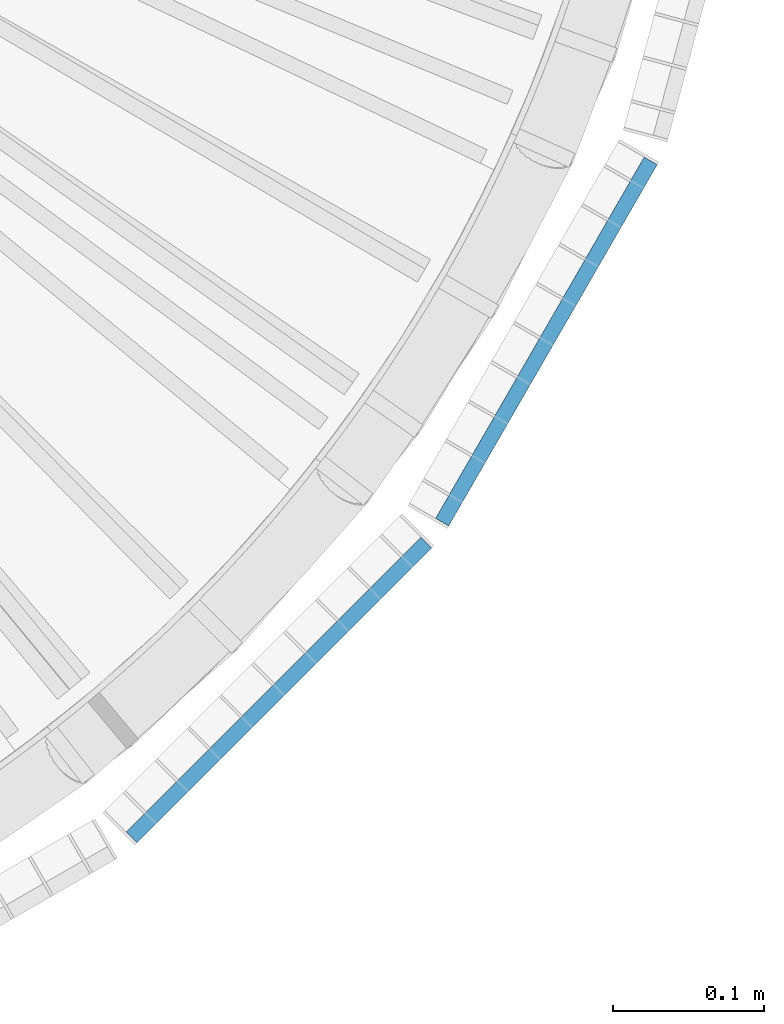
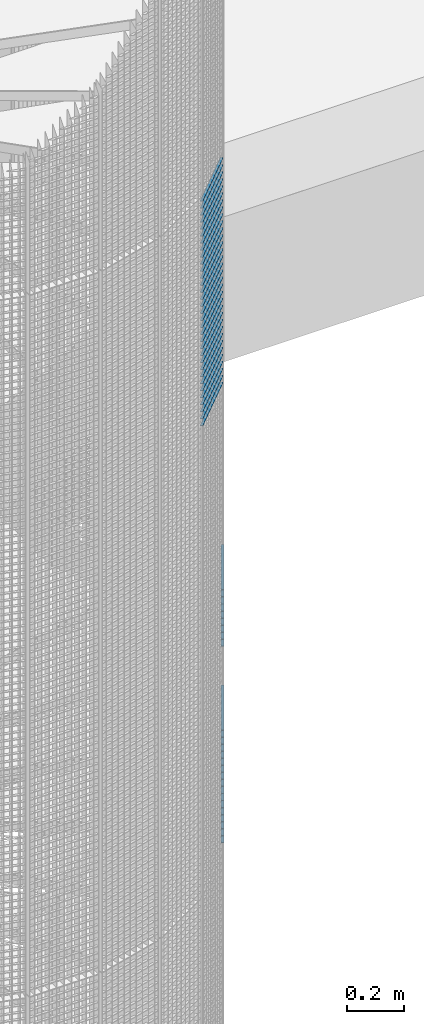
# One storey, part 253 of 1183: 59 beams, 2 elements without a shape of their own.
"""IFC2X3 building model written with IfcOpenShell, lengths in millimetres."""

from ifc_helpers import new_model, si_unit, frame, origin_with_axes, origin_2d_with_axis, place, context, subcontext, project, spatial, rectangle, extrude, material, type_object, element, aggregate, save


model = new_model("IFC2X3")

# Units and contexts
model_context = context("Model", 3, precision=1e-05, world=origin_with_axes())
body_context = subcontext(model_context, "Body", "Model", "MODEL_VIEW")
ifc_project = project(units=[si_unit("LENGTHUNIT", "METRE", prefix="MILLI"), si_unit("AREAUNIT", "SQUARE_METRE"), si_unit("VOLUMEUNIT", "CUBIC_METRE"), si_unit("MASSUNIT", "GRAM", prefix="KILO"), si_unit("TIMEUNIT", "SECOND"), si_unit("PLANEANGLEUNIT", "RADIAN"), si_unit("SOLIDANGLEUNIT", "STERADIAN"), si_unit("THERMODYNAMICTEMPERATUREUNIT", "DEGREE_CELSIUS"), si_unit("LUMINOUSINTENSITYUNIT", "LUMEN")], contexts=[model_context])

# Site, building, storey
site_placement = place(None, origin_with_axes())
site = spatial("IfcSite", under=ifc_project, at=site_placement, Name="Undefined", CompositionType="ELEMENT")
building_placement = place(site_placement, origin_with_axes())
building = spatial("IfcBuilding", under=site, at=building_placement, Name="Undefined", CompositionType="ELEMENT")
storey_placement = place(building_placement, origin_with_axes())
storey = spatial("IfcBuildingStorey", under=building, at=storey_placement, Name="Undefined", CompositionType="ELEMENT", Elevation=0.0)

# Assembly, beams
assembly_1_placement = place(storey_placement, origin_with_axes())
assembly_1 = element("IfcElementAssembly", 1, at=assembly_1_placement, inside=storey, Name="BORDURE", AssemblyPlace="NOTDEFINED", PredefinedType="NOTDEFINED")
ifc_material = material(Name="STEEL/S235JR")
beam_type = type_object("IfcBeamType", Name="PL2*10", PredefinedType="NOTDEFINED")
beam_1_placement = place(assembly_1_placement, frame((895.303964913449, -676.248044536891, 6510.0), z_axis=(0.866025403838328, -0.49999999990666, 0.0), x_axis=(0.49999999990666, 0.866025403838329, 0.0)))
beam_1 = element("IfcBeam", 2, at=beam_1_placement, type_object=beam_type, material=ifc_material, Name="ENTRETOISE", context=body_context, shape_type="SweptSolid", body=[
    extrude(rectangle(XDim=2.0, YDim=10.0, at=origin_2d_with_axis()), frame((275.999999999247, 9.09494701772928e-13, 1.53210777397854e-14), z_axis=(-1.0, 0.0, 0.0), x_axis=(0.0, -1.0, 0.0)), (0.0, 0.0, 1.0), 276.0),
])
beam_2_placement = place(assembly_1_placement, frame((895.303964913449, -676.248044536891, 6480.0), z_axis=(0.866025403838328, -0.49999999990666, 0.0), x_axis=(0.49999999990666, 0.866025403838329, 0.0)))
beam_2 = element("IfcBeam", 3, at=beam_2_placement, type_object=beam_type, material=ifc_material, Name="ENTRETOISE", context=body_context, shape_type="SweptSolid", body=[
    extrude(rectangle(XDim=2.0, YDim=10.0, at=origin_2d_with_axis()), frame((275.999999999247, 9.09494701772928e-13, 1.53210777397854e-14), z_axis=(-1.0, 0.0, 0.0), x_axis=(0.0, -1.0, 0.0)), (0.0, 0.0, 1.0), 276.0),
])
beam_3_placement = place(assembly_1_placement, frame((895.303964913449, -676.248044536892, 6870.0), z_axis=(0.866025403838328, -0.49999999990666, 0.0), x_axis=(0.49999999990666, 0.866025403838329, 0.0)))
beam_3 = element("IfcBeam", 4, at=beam_3_placement, type_object=beam_type, material=ifc_material, Name="ENTRETOISE", context=body_context, shape_type="SweptSolid", body=[
    extrude(rectangle(XDim=2.0, YDim=10.0, at=origin_2d_with_axis()), frame((275.999999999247, 9.09494701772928e-13, 1.53210777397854e-14), z_axis=(-1.0, 0.0, 0.0), x_axis=(0.0, -1.0, 0.0)), (0.0, 0.0, 1.0), 276.0),
])
beam_4_placement = place(assembly_1_placement, frame((895.30396491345, -676.248044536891, 6450.0), z_axis=(0.866025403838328, -0.49999999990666, 0.0), x_axis=(0.49999999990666, 0.866025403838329, 0.0)))
beam_4 = element("IfcBeam", 5, at=beam_4_placement, type_object=beam_type, material=ifc_material, Name="ENTRETOISE", context=body_context, shape_type="SweptSolid", body=[
    extrude(rectangle(XDim=2.0, YDim=10.0, at=origin_2d_with_axis()), frame((275.999999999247, 9.09494701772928e-13, 1.53210777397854e-14), z_axis=(-1.0, 0.0, 0.0), x_axis=(0.0, -1.0, 0.0)), (0.0, 0.0, 1.0), 276.0),
])
beam_5_placement = place(assembly_1_placement, frame((895.30396491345, -676.24804453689, 6420.0), z_axis=(0.866025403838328, -0.49999999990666, 0.0), x_axis=(0.49999999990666, 0.866025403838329, 0.0)))
beam_5 = element("IfcBeam", 6, at=beam_5_placement, type_object=beam_type, material=ifc_material, Name="ENTRETOISE", context=body_context, shape_type="SweptSolid", body=[
    extrude(rectangle(XDim=2.0, YDim=10.0, at=origin_2d_with_axis()), frame((275.999999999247, 9.09494701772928e-13, 1.53210777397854e-14), z_axis=(-1.0, 0.0, 0.0), x_axis=(0.0, -1.0, 0.0)), (0.0, 0.0, 1.0), 276.0),
])
beam_6_placement = place(assembly_1_placement, frame((895.303964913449, -676.248044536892, 6900.0), z_axis=(0.866025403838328, -0.49999999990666, 0.0), x_axis=(0.49999999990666, 0.866025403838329, 0.0)))
beam_6 = element("IfcBeam", 7, at=beam_6_placement, type_object=beam_type, material=ifc_material, Name="ENTRETOISE", context=body_context, shape_type="SweptSolid", body=[
    extrude(rectangle(XDim=2.0, YDim=10.0, at=origin_2d_with_axis()), frame((275.999999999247, 9.09494701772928e-13, 1.53210777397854e-14), z_axis=(-1.0, 0.0, 0.0), x_axis=(0.0, -1.0, 0.0)), (0.0, 0.0, 1.0), 276.0),
])
beam_7_placement = place(assembly_1_placement, frame((895.30396491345, -676.24804453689, 6390.0), z_axis=(0.866025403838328, -0.49999999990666, 0.0), x_axis=(0.49999999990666, 0.866025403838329, 0.0)))
beam_7 = element("IfcBeam", 8, at=beam_7_placement, type_object=beam_type, material=ifc_material, Name="ENTRETOISE", context=body_context, shape_type="SweptSolid", body=[
    extrude(rectangle(XDim=2.0, YDim=10.0, at=origin_2d_with_axis()), frame((275.999999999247, 9.09494701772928e-13, 1.53210777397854e-14), z_axis=(-1.0, 0.0, 0.0), x_axis=(0.0, -1.0, 0.0)), (0.0, 0.0, 1.0), 276.0),
])
beam_8_placement = place(assembly_1_placement, frame((895.303964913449, -676.248044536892, 6930.0), z_axis=(0.866025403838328, -0.49999999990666, 0.0), x_axis=(0.49999999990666, 0.866025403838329, 0.0)))
beam_8 = element("IfcBeam", 9, at=beam_8_placement, type_object=beam_type, material=ifc_material, Name="ENTRETOISE", context=body_context, shape_type="SweptSolid", body=[
    extrude(rectangle(XDim=2.0, YDim=10.0, at=origin_2d_with_axis()), frame((275.999999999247, 9.09494701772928e-13, 1.53210777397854e-14), z_axis=(-1.0, 0.0, 0.0), x_axis=(0.0, -1.0, 0.0)), (0.0, 0.0, 1.0), 276.0),
])
beam_9_placement = place(assembly_1_placement, frame((895.30396491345, -676.24804453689, 6360.0), z_axis=(0.866025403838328, -0.49999999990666, 0.0), x_axis=(0.49999999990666, 0.866025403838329, 0.0)))
beam_9 = element("IfcBeam", 10, at=beam_9_placement, type_object=beam_type, material=ifc_material, Name="ENTRETOISE", context=body_context, shape_type="SweptSolid", body=[
    extrude(rectangle(XDim=2.0, YDim=10.0, at=origin_2d_with_axis()), frame((275.999999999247, 9.09494701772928e-13, 1.53210777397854e-14), z_axis=(-1.0, 0.0, 0.0), x_axis=(0.0, -1.0, 0.0)), (0.0, 0.0, 1.0), 276.0),
])
beam_10_placement = place(assembly_1_placement, frame((895.30396491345, -676.24804453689, 6330.0), z_axis=(0.866025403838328, -0.49999999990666, 0.0), x_axis=(0.49999999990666, 0.866025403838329, 0.0)))
beam_10 = element("IfcBeam", 11, at=beam_10_placement, type_object=beam_type, material=ifc_material, Name="ENTRETOISE", context=body_context, shape_type="SweptSolid", body=[
    extrude(rectangle(XDim=2.0, YDim=10.0, at=origin_2d_with_axis()), frame((275.999999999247, 9.09494701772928e-13, 1.53210777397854e-14), z_axis=(-1.0, 0.0, 0.0), x_axis=(0.0, -1.0, 0.0)), (0.0, 0.0, 1.0), 276.0),
])
beam_11_placement = place(assembly_1_placement, frame((895.303964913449, -676.248044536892, 6960.0), z_axis=(0.866025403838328, -0.49999999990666, 0.0), x_axis=(0.49999999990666, 0.866025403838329, 0.0)))
beam_11 = element("IfcBeam", 12, at=beam_11_placement, type_object=beam_type, material=ifc_material, Name="ENTRETOISE", context=body_context, shape_type="SweptSolid", body=[
    extrude(rectangle(XDim=2.0, YDim=10.0, at=origin_2d_with_axis()), frame((275.999999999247, 9.09494701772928e-13, 1.53210777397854e-14), z_axis=(-1.0, 0.0, 0.0), x_axis=(0.0, -1.0, 0.0)), (0.0, 0.0, 1.0), 276.0),
])
beam_12_placement = place(assembly_1_placement, frame((895.30396491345, -676.24804453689, 6300.0), z_axis=(0.866025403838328, -0.49999999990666, 0.0), x_axis=(0.49999999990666, 0.866025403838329, 0.0)))
beam_12 = element("IfcBeam", 13, at=beam_12_placement, type_object=beam_type, material=ifc_material, Name="ENTRETOISE", context=body_context, shape_type="SweptSolid", body=[
    extrude(rectangle(XDim=2.0, YDim=10.0, at=origin_2d_with_axis()), frame((275.999999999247, 9.09494701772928e-13, 1.53210777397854e-14), z_axis=(-1.0, 0.0, 0.0), x_axis=(0.0, -1.0, 0.0)), (0.0, 0.0, 1.0), 276.0),
])
beam_13_placement = place(assembly_1_placement, frame((895.30396491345, -676.24804453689, 6270.0), z_axis=(0.866025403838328, -0.49999999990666, 0.0), x_axis=(0.49999999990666, 0.866025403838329, 0.0)))
beam_13 = element("IfcBeam", 14, at=beam_13_placement, type_object=beam_type, material=ifc_material, Name="ENTRETOISE", context=body_context, shape_type="SweptSolid", body=[
    extrude(rectangle(XDim=2.0, YDim=10.0, at=origin_2d_with_axis()), frame((275.999999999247, 9.09494701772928e-13, 1.53210777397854e-14), z_axis=(-1.0, 0.0, 0.0), x_axis=(0.0, -1.0, 0.0)), (0.0, 0.0, 1.0), 276.0),
])
beam_14_placement = place(assembly_1_placement, frame((895.303964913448, -676.248044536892, 6990.0), z_axis=(0.866025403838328, -0.49999999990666, 0.0), x_axis=(0.49999999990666, 0.866025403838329, 0.0)))
beam_14 = element("IfcBeam", 15, at=beam_14_placement, type_object=beam_type, material=ifc_material, Name="ENTRETOISE", context=body_context, shape_type="SweptSolid", body=[
    extrude(rectangle(XDim=2.0, YDim=10.0, at=origin_2d_with_axis()), frame((275.999999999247, 9.09494701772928e-13, 1.53210777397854e-14), z_axis=(-1.0, 0.0, 0.0), x_axis=(0.0, -1.0, 0.0)), (0.0, 0.0, 1.0), 276.0),
])
beam_15_placement = place(assembly_1_placement, frame((895.30396491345, -676.24804453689, 6240.0), z_axis=(0.866025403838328, -0.49999999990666, 0.0), x_axis=(0.49999999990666, 0.866025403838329, 0.0)))
beam_15 = element("IfcBeam", 16, at=beam_15_placement, type_object=beam_type, material=ifc_material, Name="ENTRETOISE", context=body_context, shape_type="SweptSolid", body=[
    extrude(rectangle(XDim=2.0, YDim=10.0, at=origin_2d_with_axis()), frame((275.999999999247, 9.09494701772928e-13, 1.53210777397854e-14), z_axis=(-1.0, 0.0, 0.0), x_axis=(0.0, -1.0, 0.0)), (0.0, 0.0, 1.0), 276.0),
])
beam_16_placement = place(assembly_1_placement, frame((895.303964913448, -676.248044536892, 7020.0), z_axis=(0.866025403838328, -0.49999999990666, 0.0), x_axis=(0.49999999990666, 0.866025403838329, 0.0)))
beam_16 = element("IfcBeam", 17, at=beam_16_placement, type_object=beam_type, material=ifc_material, Name="ENTRETOISE", context=body_context, shape_type="SweptSolid", body=[
    extrude(rectangle(XDim=2.0, YDim=10.0, at=origin_2d_with_axis()), frame((275.999999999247, 9.09494701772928e-13, 1.53210777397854e-14), z_axis=(-1.0, 0.0, 0.0), x_axis=(0.0, -1.0, 0.0)), (0.0, 0.0, 1.0), 276.0),
])
beam_17_placement = place(assembly_1_placement, frame((895.30396491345, -676.24804453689, 6210.0), z_axis=(0.866025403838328, -0.49999999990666, 0.0), x_axis=(0.49999999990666, 0.866025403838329, 0.0)))
beam_17 = element("IfcBeam", 18, at=beam_17_placement, type_object=beam_type, material=ifc_material, Name="ENTRETOISE", context=body_context, shape_type="SweptSolid", body=[
    extrude(rectangle(XDim=2.0, YDim=10.0, at=origin_2d_with_axis()), frame((275.999999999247, 9.09494701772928e-13, 1.53210777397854e-14), z_axis=(-1.0, 0.0, 0.0), x_axis=(0.0, -1.0, 0.0)), (0.0, 0.0, 1.0), 276.0),
])
beam_18_placement = place(assembly_1_placement, frame((895.30396491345, -676.24804453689, 6180.0), z_axis=(0.866025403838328, -0.49999999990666, 0.0), x_axis=(0.49999999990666, 0.866025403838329, 0.0)))
beam_18 = element("IfcBeam", 19, at=beam_18_placement, type_object=beam_type, material=ifc_material, Name="ENTRETOISE", context=body_context, shape_type="SweptSolid", body=[
    extrude(rectangle(XDim=2.0, YDim=10.0, at=origin_2d_with_axis()), frame((275.999999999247, 9.09494701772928e-13, 1.53210777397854e-14), z_axis=(-1.0, 0.0, 0.0), x_axis=(0.0, -1.0, 0.0)), (0.0, 0.0, 1.0), 276.0),
])
beam_19_placement = place(assembly_1_placement, frame((895.303964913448, -676.248044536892, 7050.0), z_axis=(0.866025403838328, -0.49999999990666, 0.0), x_axis=(0.49999999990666, 0.866025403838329, 0.0)))
beam_19 = element("IfcBeam", 20, at=beam_19_placement, type_object=beam_type, material=ifc_material, Name="ENTRETOISE", context=body_context, shape_type="SweptSolid", body=[
    extrude(rectangle(XDim=2.0, YDim=10.0, at=origin_2d_with_axis()), frame((275.999999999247, 9.09494701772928e-13, 1.53210777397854e-14), z_axis=(-1.0, 0.0, 0.0), x_axis=(0.0, -1.0, 0.0)), (0.0, 0.0, 1.0), 276.0),
])
beam_20_placement = place(assembly_1_placement, frame((895.30396491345, -676.24804453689, 6150.0), z_axis=(0.866025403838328, -0.49999999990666, 0.0), x_axis=(0.49999999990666, 0.866025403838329, 0.0)))
beam_20 = element("IfcBeam", 21, at=beam_20_placement, type_object=beam_type, material=ifc_material, Name="ENTRETOISE", context=body_context, shape_type="SweptSolid", body=[
    extrude(rectangle(XDim=2.0, YDim=10.0, at=origin_2d_with_axis()), frame((275.999999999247, 9.09494701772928e-13, 1.53210777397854e-14), z_axis=(-1.0, 0.0, 0.0), x_axis=(0.0, -1.0, 0.0)), (0.0, 0.0, 1.0), 276.0),
])
beam_21_placement = place(assembly_1_placement, frame((895.30396491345, -676.24804453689, 6120.0), z_axis=(0.866025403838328, -0.49999999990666, 0.0), x_axis=(0.49999999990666, 0.866025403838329, 0.0)))
beam_21 = element("IfcBeam", 22, at=beam_21_placement, type_object=beam_type, material=ifc_material, Name="ENTRETOISE", context=body_context, shape_type="SweptSolid", body=[
    extrude(rectangle(XDim=2.0, YDim=10.0, at=origin_2d_with_axis()), frame((275.999999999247, 9.09494701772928e-13, 1.53210777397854e-14), z_axis=(-1.0, 0.0, 0.0), x_axis=(0.0, -1.0, 0.0)), (0.0, 0.0, 1.0), 276.0),
])
beam_22_placement = place(assembly_1_placement, frame((895.303964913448, -676.248044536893, 7080.0), z_axis=(0.866025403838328, -0.49999999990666, 0.0), x_axis=(0.49999999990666, 0.866025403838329, 0.0)))
beam_22 = element("IfcBeam", 23, at=beam_22_placement, type_object=beam_type, material=ifc_material, Name="ENTRETOISE", context=body_context, shape_type="SweptSolid", body=[
    extrude(rectangle(XDim=2.0, YDim=10.0, at=origin_2d_with_axis()), frame((275.999999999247, 9.09494701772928e-13, 1.53210777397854e-14), z_axis=(-1.0, 0.0, 0.0), x_axis=(0.0, -1.0, 0.0)), (0.0, 0.0, 1.0), 276.0),
])
beam_23_placement = place(assembly_1_placement, frame((895.30396491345, -676.248044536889, 6090.0), z_axis=(0.866025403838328, -0.49999999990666, 0.0), x_axis=(0.49999999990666, 0.866025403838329, 0.0)))
beam_23 = element("IfcBeam", 24, at=beam_23_placement, type_object=beam_type, material=ifc_material, Name="ENTRETOISE", context=body_context, shape_type="SweptSolid", body=[
    extrude(rectangle(XDim=2.0, YDim=10.0, at=origin_2d_with_axis()), frame((275.999999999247, 9.09494701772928e-13, 1.53210777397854e-14), z_axis=(-1.0, 0.0, 0.0), x_axis=(0.0, -1.0, 0.0)), (0.0, 0.0, 1.0), 276.0),
])
beam_24_placement = place(assembly_1_placement, frame((895.30396491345, -676.248044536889, 6060.0), z_axis=(0.866025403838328, -0.49999999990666, 0.0), x_axis=(0.49999999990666, 0.866025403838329, 0.0)))
beam_24 = element("IfcBeam", 25, at=beam_24_placement, type_object=beam_type, material=ifc_material, Name="ENTRETOISE", context=body_context, shape_type="SweptSolid", body=[
    extrude(rectangle(XDim=2.0, YDim=10.0, at=origin_2d_with_axis()), frame((275.999999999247, 9.09494701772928e-13, 1.53210777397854e-14), z_axis=(-1.0, 0.0, 0.0), x_axis=(0.0, -1.0, 0.0)), (0.0, 0.0, 1.0), 276.0),
])
beam_25_placement = place(assembly_1_placement, frame((895.303964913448, -676.248044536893, 7110.0), z_axis=(0.866025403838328, -0.49999999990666, 0.0), x_axis=(0.49999999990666, 0.866025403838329, 0.0)))
beam_25 = element("IfcBeam", 26, at=beam_25_placement, type_object=beam_type, material=ifc_material, Name="ENTRETOISE", context=body_context, shape_type="SweptSolid", body=[
    extrude(rectangle(XDim=2.0, YDim=10.0, at=origin_2d_with_axis()), frame((275.999999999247, 9.09494701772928e-13, 1.53210777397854e-14), z_axis=(-1.0, 0.0, 0.0), x_axis=(0.0, -1.0, 0.0)), (0.0, 0.0, 1.0), 276.0),
])
beam_26_placement = place(assembly_1_placement, frame((895.30396491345, -676.248044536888, 6030.0), z_axis=(0.866025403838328, -0.49999999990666, 0.0), x_axis=(0.49999999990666, 0.866025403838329, 0.0)))
beam_26 = element("IfcBeam", 27, at=beam_26_placement, type_object=beam_type, material=ifc_material, Name="ENTRETOISE", context=body_context, shape_type="SweptSolid", body=[
    extrude(rectangle(XDim=2.0, YDim=10.0, at=origin_2d_with_axis()), frame((275.999999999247, 9.09494701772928e-13, 1.53210777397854e-14), z_axis=(-1.0, 0.0, 0.0), x_axis=(0.0, -1.0, 0.0)), (0.0, 0.0, 1.0), 276.0),
])
aggregate(assembly_1, [beam_1, beam_2, beam_3, beam_4, beam_5, beam_6, beam_7, beam_8, beam_9, beam_10, beam_11, beam_12, beam_13, beam_14, beam_15, beam_16, beam_17, beam_18, beam_19, beam_20, beam_21, beam_22, beam_23, beam_24, beam_25, beam_26])

assembly_2_placement = place(storey_placement, origin_with_axes())
assembly_2 = element("IfcElementAssembly", 28, at=assembly_2_placement, inside=storey, Name="BORDURE", AssemblyPlace="NOTDEFINED", PredefinedType="NOTDEFINED")
beam_27_placement = place(assembly_2_placement, frame((689.771348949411, -884.927168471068, 8970.0), z_axis=(0.707106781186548, -0.707106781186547, 0.0), x_axis=(0.707106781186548, 0.707106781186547, 0.0)))
beam_27 = element("IfcBeam", 29, at=beam_27_placement, type_object=beam_type, material=ifc_material, Name="ENTRETOISE", context=body_context, shape_type="SweptSolid", body=[
    extrude(rectangle(XDim=2.0, YDim=10.0, at=origin_2d_with_axis()), frame((275.999999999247, 9.09494701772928e-13, 1.53210777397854e-14), z_axis=(-1.0, 0.0, 0.0), x_axis=(0.0, -1.0, 0.0)), (0.0, 0.0, 1.0), 276.0),
])
beam_28_placement = place(assembly_2_placement, frame((689.771348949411, -884.927168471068, 8940.0), z_axis=(0.707106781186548, -0.707106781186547, 0.0), x_axis=(0.707106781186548, 0.707106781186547, 0.0)))
beam_28 = element("IfcBeam", 30, at=beam_28_placement, type_object=beam_type, material=ifc_material, Name="ENTRETOISE", context=body_context, shape_type="SweptSolid", body=[
    extrude(rectangle(XDim=2.0, YDim=10.0, at=origin_2d_with_axis()), frame((275.999999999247, 9.09494701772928e-13, 1.53210777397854e-14), z_axis=(-1.0, 0.0, 0.0), x_axis=(0.0, -1.0, 0.0)), (0.0, 0.0, 1.0), 276.0),
])
beam_29_placement = place(assembly_2_placement, frame((689.771348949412, -884.927168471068, 8910.0), z_axis=(0.707106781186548, -0.707106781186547, 0.0), x_axis=(0.707106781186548, 0.707106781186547, 0.0)))
beam_29 = element("IfcBeam", 31, at=beam_29_placement, type_object=beam_type, material=ifc_material, Name="ENTRETOISE", context=body_context, shape_type="SweptSolid", body=[
    extrude(rectangle(XDim=2.0, YDim=10.0, at=origin_2d_with_axis()), frame((275.999999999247, 9.09494701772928e-13, 1.53210777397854e-14), z_axis=(-1.0, 0.0, 0.0), x_axis=(0.0, -1.0, 0.0)), (0.0, 0.0, 1.0), 276.0),
])
beam_30_placement = place(assembly_2_placement, frame((689.771348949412, -884.927168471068, 8880.0), z_axis=(0.707106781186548, -0.707106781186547, 0.0), x_axis=(0.707106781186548, 0.707106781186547, 0.0)))
beam_30 = element("IfcBeam", 32, at=beam_30_placement, type_object=beam_type, material=ifc_material, Name="ENTRETOISE", context=body_context, shape_type="SweptSolid", body=[
    extrude(rectangle(XDim=2.0, YDim=10.0, at=origin_2d_with_axis()), frame((275.999999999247, 9.09494701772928e-13, 1.53210777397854e-14), z_axis=(-1.0, 0.0, 0.0), x_axis=(0.0, -1.0, 0.0)), (0.0, 0.0, 1.0), 276.0),
])
beam_31_placement = place(assembly_2_placement, frame((689.771348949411, -884.927168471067, 8850.0), z_axis=(0.707106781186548, -0.707106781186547, 0.0), x_axis=(0.707106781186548, 0.707106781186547, 0.0)))
beam_31 = element("IfcBeam", 33, at=beam_31_placement, type_object=beam_type, material=ifc_material, Name="ENTRETOISE", context=body_context, shape_type="SweptSolid", body=[
    extrude(rectangle(XDim=2.0, YDim=10.0, at=origin_2d_with_axis()), frame((275.999999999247, 9.09494701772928e-13, 1.53210777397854e-14), z_axis=(-1.0, 0.0, 0.0), x_axis=(0.0, -1.0, 0.0)), (0.0, 0.0, 1.0), 276.0),
])
beam_32_placement = place(assembly_2_placement, frame((689.771348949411, -884.927168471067, 8820.0), z_axis=(0.707106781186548, -0.707106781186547, 0.0), x_axis=(0.707106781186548, 0.707106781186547, 0.0)))
beam_32 = element("IfcBeam", 34, at=beam_32_placement, type_object=beam_type, material=ifc_material, Name="ENTRETOISE", context=body_context, shape_type="SweptSolid", body=[
    extrude(rectangle(XDim=2.0, YDim=10.0, at=origin_2d_with_axis()), frame((275.999999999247, 9.09494701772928e-13, 1.53210777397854e-14), z_axis=(-1.0, 0.0, 0.0), x_axis=(0.0, -1.0, 0.0)), (0.0, 0.0, 1.0), 276.0),
])
beam_33_placement = place(assembly_2_placement, frame((689.771348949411, -884.927168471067, 8790.0), z_axis=(0.707106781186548, -0.707106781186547, 0.0), x_axis=(0.707106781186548, 0.707106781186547, 0.0)))
beam_33 = element("IfcBeam", 35, at=beam_33_placement, type_object=beam_type, material=ifc_material, Name="ENTRETOISE", context=body_context, shape_type="SweptSolid", body=[
    extrude(rectangle(XDim=2.0, YDim=10.0, at=origin_2d_with_axis()), frame((275.999999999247, 9.09494701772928e-13, 1.53210777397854e-14), z_axis=(-1.0, 0.0, 0.0), x_axis=(0.0, -1.0, 0.0)), (0.0, 0.0, 1.0), 276.0),
])
beam_34_placement = place(assembly_2_placement, frame((689.771348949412, -884.927168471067, 8760.0), z_axis=(0.707106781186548, -0.707106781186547, 0.0), x_axis=(0.707106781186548, 0.707106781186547, 0.0)))
beam_34 = element("IfcBeam", 36, at=beam_34_placement, type_object=beam_type, material=ifc_material, Name="ENTRETOISE", context=body_context, shape_type="SweptSolid", body=[
    extrude(rectangle(XDim=2.0, YDim=10.0, at=origin_2d_with_axis()), frame((275.999999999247, 9.09494701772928e-13, 1.53210777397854e-14), z_axis=(-1.0, 0.0, 0.0), x_axis=(0.0, -1.0, 0.0)), (0.0, 0.0, 1.0), 276.0),
])
beam_35_placement = place(assembly_2_placement, frame((689.771348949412, -884.927168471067, 8730.0), z_axis=(0.707106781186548, -0.707106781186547, 0.0), x_axis=(0.707106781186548, 0.707106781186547, 0.0)))
beam_35 = element("IfcBeam", 37, at=beam_35_placement, type_object=beam_type, material=ifc_material, Name="ENTRETOISE", context=body_context, shape_type="SweptSolid", body=[
    extrude(rectangle(XDim=2.0, YDim=10.0, at=origin_2d_with_axis()), frame((275.999999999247, 9.09494701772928e-13, 1.53210777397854e-14), z_axis=(-1.0, 0.0, 0.0), x_axis=(0.0, -1.0, 0.0)), (0.0, 0.0, 1.0), 276.0),
])
beam_36_placement = place(assembly_2_placement, frame((689.771348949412, -884.927168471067, 8700.0), z_axis=(0.707106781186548, -0.707106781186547, 0.0), x_axis=(0.707106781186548, 0.707106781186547, 0.0)))
beam_36 = element("IfcBeam", 38, at=beam_36_placement, type_object=beam_type, material=ifc_material, Name="ENTRETOISE", context=body_context, shape_type="SweptSolid", body=[
    extrude(rectangle(XDim=2.0, YDim=10.0, at=origin_2d_with_axis()), frame((275.999999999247, 9.09494701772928e-13, 1.53210777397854e-14), z_axis=(-1.0, 0.0, 0.0), x_axis=(0.0, -1.0, 0.0)), (0.0, 0.0, 1.0), 276.0),
])
beam_37_placement = place(assembly_2_placement, frame((689.771348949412, -884.927168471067, 8670.0), z_axis=(0.707106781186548, -0.707106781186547, 0.0), x_axis=(0.707106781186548, 0.707106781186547, 0.0)))
beam_37 = element("IfcBeam", 39, at=beam_37_placement, type_object=beam_type, material=ifc_material, Name="ENTRETOISE", context=body_context, shape_type="SweptSolid", body=[
    extrude(rectangle(XDim=2.0, YDim=10.0, at=origin_2d_with_axis()), frame((275.999999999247, 9.09494701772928e-13, 1.53210777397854e-14), z_axis=(-1.0, 0.0, 0.0), x_axis=(0.0, -1.0, 0.0)), (0.0, 0.0, 1.0), 276.0),
])
beam_38_placement = place(assembly_2_placement, frame((689.771348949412, -884.927168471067, 8640.0), z_axis=(0.707106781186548, -0.707106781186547, 0.0), x_axis=(0.707106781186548, 0.707106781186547, 0.0)))
beam_38 = element("IfcBeam", 40, at=beam_38_placement, type_object=beam_type, material=ifc_material, Name="ENTRETOISE", context=body_context, shape_type="SweptSolid", body=[
    extrude(rectangle(XDim=2.0, YDim=10.0, at=origin_2d_with_axis()), frame((275.999999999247, 9.09494701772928e-13, 1.53210777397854e-14), z_axis=(-1.0, 0.0, 0.0), x_axis=(0.0, -1.0, 0.0)), (0.0, 0.0, 1.0), 276.0),
])
beam_39_placement = place(assembly_2_placement, frame((689.771348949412, -884.927168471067, 8610.0), z_axis=(0.707106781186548, -0.707106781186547, 0.0), x_axis=(0.707106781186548, 0.707106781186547, 0.0)))
beam_39 = element("IfcBeam", 41, at=beam_39_placement, type_object=beam_type, material=ifc_material, Name="ENTRETOISE", context=body_context, shape_type="SweptSolid", body=[
    extrude(rectangle(XDim=2.0, YDim=10.0, at=origin_2d_with_axis()), frame((275.999999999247, 9.09494701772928e-13, 1.53210777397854e-14), z_axis=(-1.0, 0.0, 0.0), x_axis=(0.0, -1.0, 0.0)), (0.0, 0.0, 1.0), 276.0),
])
beam_40_placement = place(assembly_2_placement, frame((689.771348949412, -884.927168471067, 8580.0), z_axis=(0.707106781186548, -0.707106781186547, 0.0), x_axis=(0.707106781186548, 0.707106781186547, 0.0)))
beam_40 = element("IfcBeam", 42, at=beam_40_placement, type_object=beam_type, material=ifc_material, Name="ENTRETOISE", context=body_context, shape_type="SweptSolid", body=[
    extrude(rectangle(XDim=2.0, YDim=10.0, at=origin_2d_with_axis()), frame((275.999999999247, 9.09494701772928e-13, 1.53210777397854e-14), z_axis=(-1.0, 0.0, 0.0), x_axis=(0.0, -1.0, 0.0)), (0.0, 0.0, 1.0), 276.0),
])
beam_41_placement = place(assembly_2_placement, frame((689.771348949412, -884.927168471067, 8550.0), z_axis=(0.707106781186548, -0.707106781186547, 0.0), x_axis=(0.707106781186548, 0.707106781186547, 0.0)))
beam_41 = element("IfcBeam", 43, at=beam_41_placement, type_object=beam_type, material=ifc_material, Name="ENTRETOISE", context=body_context, shape_type="SweptSolid", body=[
    extrude(rectangle(XDim=2.0, YDim=10.0, at=origin_2d_with_axis()), frame((275.999999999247, 9.09494701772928e-13, 1.53210777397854e-14), z_axis=(-1.0, 0.0, 0.0), x_axis=(0.0, -1.0, 0.0)), (0.0, 0.0, 1.0), 276.0),
])
beam_42_placement = place(assembly_2_placement, frame((689.771348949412, -884.927168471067, 8520.0), z_axis=(0.707106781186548, -0.707106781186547, 0.0), x_axis=(0.707106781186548, 0.707106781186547, 0.0)))
beam_42 = element("IfcBeam", 44, at=beam_42_placement, type_object=beam_type, material=ifc_material, Name="ENTRETOISE", context=body_context, shape_type="SweptSolid", body=[
    extrude(rectangle(XDim=2.0, YDim=10.0, at=origin_2d_with_axis()), frame((275.999999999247, 9.09494701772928e-13, 1.53210777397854e-14), z_axis=(-1.0, 0.0, 0.0), x_axis=(0.0, -1.0, 0.0)), (0.0, 0.0, 1.0), 276.0),
])
beam_43_placement = place(assembly_2_placement, frame((689.771348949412, -884.927168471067, 8490.0), z_axis=(0.707106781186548, -0.707106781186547, 0.0), x_axis=(0.707106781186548, 0.707106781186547, 0.0)))
beam_43 = element("IfcBeam", 45, at=beam_43_placement, type_object=beam_type, material=ifc_material, Name="ENTRETOISE", context=body_context, shape_type="SweptSolid", body=[
    extrude(rectangle(XDim=2.0, YDim=10.0, at=origin_2d_with_axis()), frame((275.999999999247, 9.09494701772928e-13, 1.53210777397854e-14), z_axis=(-1.0, 0.0, 0.0), x_axis=(0.0, -1.0, 0.0)), (0.0, 0.0, 1.0), 276.0),
])
beam_44_placement = place(assembly_2_placement, frame((689.771348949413, -884.927168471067, 8460.0), z_axis=(0.707106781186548, -0.707106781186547, 0.0), x_axis=(0.707106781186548, 0.707106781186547, 0.0)))
beam_44 = element("IfcBeam", 46, at=beam_44_placement, type_object=beam_type, material=ifc_material, Name="ENTRETOISE", context=body_context, shape_type="SweptSolid", body=[
    extrude(rectangle(XDim=2.0, YDim=10.0, at=origin_2d_with_axis()), frame((275.999999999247, 9.09494701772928e-13, 1.53210777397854e-14), z_axis=(-1.0, 0.0, 0.0), x_axis=(0.0, -1.0, 0.0)), (0.0, 0.0, 1.0), 276.0),
])
beam_45_placement = place(assembly_2_placement, frame((689.771348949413, -884.927168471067, 8430.0), z_axis=(0.707106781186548, -0.707106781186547, 0.0), x_axis=(0.707106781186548, 0.707106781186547, 0.0)))
beam_45 = element("IfcBeam", 47, at=beam_45_placement, type_object=beam_type, material=ifc_material, Name="ENTRETOISE", context=body_context, shape_type="SweptSolid", body=[
    extrude(rectangle(XDim=2.0, YDim=10.0, at=origin_2d_with_axis()), frame((275.999999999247, 9.09494701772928e-13, 1.53210777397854e-14), z_axis=(-1.0, 0.0, 0.0), x_axis=(0.0, -1.0, 0.0)), (0.0, 0.0, 1.0), 276.0),
])
beam_46_placement = place(assembly_2_placement, frame((689.771348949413, -884.927168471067, 8400.0), z_axis=(0.707106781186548, -0.707106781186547, 0.0), x_axis=(0.707106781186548, 0.707106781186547, 0.0)))
beam_46 = element("IfcBeam", 48, at=beam_46_placement, type_object=beam_type, material=ifc_material, Name="ENTRETOISE", context=body_context, shape_type="SweptSolid", body=[
    extrude(rectangle(XDim=2.0, YDim=10.0, at=origin_2d_with_axis()), frame((275.999999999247, 9.09494701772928e-13, 1.53210777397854e-14), z_axis=(-1.0, 0.0, 0.0), x_axis=(0.0, -1.0, 0.0)), (0.0, 0.0, 1.0), 276.0),
])
beam_47_placement = place(assembly_2_placement, frame((689.771348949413, -884.927168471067, 8370.0), z_axis=(0.707106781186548, -0.707106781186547, 0.0), x_axis=(0.707106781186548, 0.707106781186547, 0.0)))
beam_47 = element("IfcBeam", 49, at=beam_47_placement, type_object=beam_type, material=ifc_material, Name="ENTRETOISE", context=body_context, shape_type="SweptSolid", body=[
    extrude(rectangle(XDim=2.0, YDim=10.0, at=origin_2d_with_axis()), frame((275.999999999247, 9.09494701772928e-13, 1.53210777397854e-14), z_axis=(-1.0, 0.0, 0.0), x_axis=(0.0, -1.0, 0.0)), (0.0, 0.0, 1.0), 276.0),
])
beam_48_placement = place(assembly_2_placement, frame((689.771348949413, -884.927168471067, 8340.0), z_axis=(0.707106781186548, -0.707106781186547, 0.0), x_axis=(0.707106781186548, 0.707106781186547, 0.0)))
beam_48 = element("IfcBeam", 50, at=beam_48_placement, type_object=beam_type, material=ifc_material, Name="ENTRETOISE", context=body_context, shape_type="SweptSolid", body=[
    extrude(rectangle(XDim=2.0, YDim=10.0, at=origin_2d_with_axis()), frame((275.999999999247, 9.09494701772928e-13, 1.53210777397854e-14), z_axis=(-1.0, 0.0, 0.0), x_axis=(0.0, -1.0, 0.0)), (0.0, 0.0, 1.0), 276.0),
])
beam_49_placement = place(assembly_2_placement, frame((689.771348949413, -884.927168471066, 8310.0), z_axis=(0.707106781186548, -0.707106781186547, 0.0), x_axis=(0.707106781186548, 0.707106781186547, 0.0)))
beam_49 = element("IfcBeam", 51, at=beam_49_placement, type_object=beam_type, material=ifc_material, Name="ENTRETOISE", context=body_context, shape_type="SweptSolid", body=[
    extrude(rectangle(XDim=2.0, YDim=10.0, at=origin_2d_with_axis()), frame((275.999999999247, 9.09494701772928e-13, 1.53210777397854e-14), z_axis=(-1.0, 0.0, 0.0), x_axis=(0.0, -1.0, 0.0)), (0.0, 0.0, 1.0), 276.0),
])
beam_50_placement = place(assembly_2_placement, frame((689.771348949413, -884.927168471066, 8280.0), z_axis=(0.707106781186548, -0.707106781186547, 0.0), x_axis=(0.707106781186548, 0.707106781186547, 0.0)))
beam_50 = element("IfcBeam", 52, at=beam_50_placement, type_object=beam_type, material=ifc_material, Name="ENTRETOISE", context=body_context, shape_type="SweptSolid", body=[
    extrude(rectangle(XDim=2.0, YDim=10.0, at=origin_2d_with_axis()), frame((275.999999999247, 9.09494701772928e-13, 1.53210777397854e-14), z_axis=(-1.0, 0.0, 0.0), x_axis=(0.0, -1.0, 0.0)), (0.0, 0.0, 1.0), 276.0),
])
beam_51_placement = place(assembly_2_placement, frame((689.771348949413, -884.927168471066, 8250.0), z_axis=(0.707106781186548, -0.707106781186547, 0.0), x_axis=(0.707106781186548, 0.707106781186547, 0.0)))
beam_51 = element("IfcBeam", 53, at=beam_51_placement, type_object=beam_type, material=ifc_material, Name="ENTRETOISE", context=body_context, shape_type="SweptSolid", body=[
    extrude(rectangle(XDim=2.0, YDim=10.0, at=origin_2d_with_axis()), frame((275.999999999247, 9.09494701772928e-13, 1.53210777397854e-14), z_axis=(-1.0, 0.0, 0.0), x_axis=(0.0, -1.0, 0.0)), (0.0, 0.0, 1.0), 276.0),
])
beam_52_placement = place(assembly_2_placement, frame((689.771348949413, -884.927168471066, 8220.0), z_axis=(0.707106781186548, -0.707106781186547, 0.0), x_axis=(0.707106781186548, 0.707106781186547, 0.0)))
beam_52 = element("IfcBeam", 54, at=beam_52_placement, type_object=beam_type, material=ifc_material, Name="ENTRETOISE", context=body_context, shape_type="SweptSolid", body=[
    extrude(rectangle(XDim=2.0, YDim=10.0, at=origin_2d_with_axis()), frame((275.999999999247, 9.09494701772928e-13, 1.53210777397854e-14), z_axis=(-1.0, 0.0, 0.0), x_axis=(0.0, -1.0, 0.0)), (0.0, 0.0, 1.0), 276.0),
])
beam_53_placement = place(assembly_2_placement, frame((689.771348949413, -884.927168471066, 8190.0), z_axis=(0.707106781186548, -0.707106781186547, 0.0), x_axis=(0.707106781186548, 0.707106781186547, 0.0)))
beam_53 = element("IfcBeam", 55, at=beam_53_placement, type_object=beam_type, material=ifc_material, Name="ENTRETOISE", context=body_context, shape_type="SweptSolid", body=[
    extrude(rectangle(XDim=2.0, YDim=10.0, at=origin_2d_with_axis()), frame((275.999999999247, 9.09494701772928e-13, 1.53210777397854e-14), z_axis=(-1.0, 0.0, 0.0), x_axis=(0.0, -1.0, 0.0)), (0.0, 0.0, 1.0), 276.0),
])
beam_54_placement = place(assembly_2_placement, frame((689.771348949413, -884.927168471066, 8160.0), z_axis=(0.707106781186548, -0.707106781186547, 0.0), x_axis=(0.707106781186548, 0.707106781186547, 0.0)))
beam_54 = element("IfcBeam", 56, at=beam_54_placement, type_object=beam_type, material=ifc_material, Name="ENTRETOISE", context=body_context, shape_type="SweptSolid", body=[
    extrude(rectangle(XDim=2.0, YDim=10.0, at=origin_2d_with_axis()), frame((275.999999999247, 9.09494701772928e-13, 1.53210777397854e-14), z_axis=(-1.0, 0.0, 0.0), x_axis=(0.0, -1.0, 0.0)), (0.0, 0.0, 1.0), 276.0),
])
beam_55_placement = place(assembly_2_placement, frame((689.771348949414, -884.927168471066, 8130.0), z_axis=(0.707106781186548, -0.707106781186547, 0.0), x_axis=(0.707106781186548, 0.707106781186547, 0.0)))
beam_55 = element("IfcBeam", 57, at=beam_55_placement, type_object=beam_type, material=ifc_material, Name="ENTRETOISE", context=body_context, shape_type="SweptSolid", body=[
    extrude(rectangle(XDim=2.0, YDim=10.0, at=origin_2d_with_axis()), frame((275.999999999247, 9.09494701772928e-13, 1.53210777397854e-14), z_axis=(-1.0, 0.0, 0.0), x_axis=(0.0, -1.0, 0.0)), (0.0, 0.0, 1.0), 276.0),
])
beam_56_placement = place(assembly_2_placement, frame((689.771348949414, -884.927168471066, 8100.0), z_axis=(0.707106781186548, -0.707106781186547, 0.0), x_axis=(0.707106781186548, 0.707106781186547, 0.0)))
beam_56 = element("IfcBeam", 58, at=beam_56_placement, type_object=beam_type, material=ifc_material, Name="ENTRETOISE", context=body_context, shape_type="SweptSolid", body=[
    extrude(rectangle(XDim=2.0, YDim=10.0, at=origin_2d_with_axis()), frame((275.999999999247, 9.09494701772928e-13, 1.53210777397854e-14), z_axis=(-1.0, 0.0, 0.0), x_axis=(0.0, -1.0, 0.0)), (0.0, 0.0, 1.0), 276.0),
])
beam_57_placement = place(assembly_2_placement, frame((689.771348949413, -884.927168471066, 8070.0), z_axis=(0.707106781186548, -0.707106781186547, 0.0), x_axis=(0.707106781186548, 0.707106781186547, 0.0)))
beam_57 = element("IfcBeam", 59, at=beam_57_placement, type_object=beam_type, material=ifc_material, Name="ENTRETOISE", context=body_context, shape_type="SweptSolid", body=[
    extrude(rectangle(XDim=2.0, YDim=10.0, at=origin_2d_with_axis()), frame((275.999999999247, 9.09494701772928e-13, 1.53210777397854e-14), z_axis=(-1.0, 0.0, 0.0), x_axis=(0.0, -1.0, 0.0)), (0.0, 0.0, 1.0), 276.0),
])
beam_58_placement = place(assembly_2_placement, frame((689.771348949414, -884.927168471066, 8040.0), z_axis=(0.707106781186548, -0.707106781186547, 0.0), x_axis=(0.707106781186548, 0.707106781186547, 0.0)))
beam_58 = element("IfcBeam", 60, at=beam_58_placement, type_object=beam_type, material=ifc_material, Name="ENTRETOISE", context=body_context, shape_type="SweptSolid", body=[
    extrude(rectangle(XDim=2.0, YDim=10.0, at=origin_2d_with_axis()), frame((275.999999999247, 9.09494701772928e-13, 1.53210777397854e-14), z_axis=(-1.0, 0.0, 0.0), x_axis=(0.0, -1.0, 0.0)), (0.0, 0.0, 1.0), 276.0),
])
beam_59_placement = place(assembly_2_placement, frame((689.771348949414, -884.927168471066, 8010.0), z_axis=(0.707106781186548, -0.707106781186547, 0.0), x_axis=(0.707106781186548, 0.707106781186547, 0.0)))
beam_59 = element("IfcBeam", 61, at=beam_59_placement, type_object=beam_type, material=ifc_material, Name="ENTRETOISE", context=body_context, shape_type="SweptSolid", body=[
    extrude(rectangle(XDim=2.0, YDim=10.0, at=origin_2d_with_axis()), frame((275.999999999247, 9.09494701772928e-13, 1.53210777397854e-14), z_axis=(-1.0, 0.0, 0.0), x_axis=(0.0, -1.0, 0.0)), (0.0, 0.0, 1.0), 276.0),
])
aggregate(assembly_2, [beam_27, beam_28, beam_29, beam_30, beam_31, beam_32, beam_33, beam_34, beam_35, beam_36, beam_37, beam_38, beam_39, beam_40, beam_41, beam_42, beam_43, beam_44, beam_45, beam_46, beam_47, beam_48, beam_49, beam_50, beam_51, beam_52, beam_53, beam_54, beam_55, beam_56, beam_57, beam_58, beam_59])

save(model, "model.ifc")
